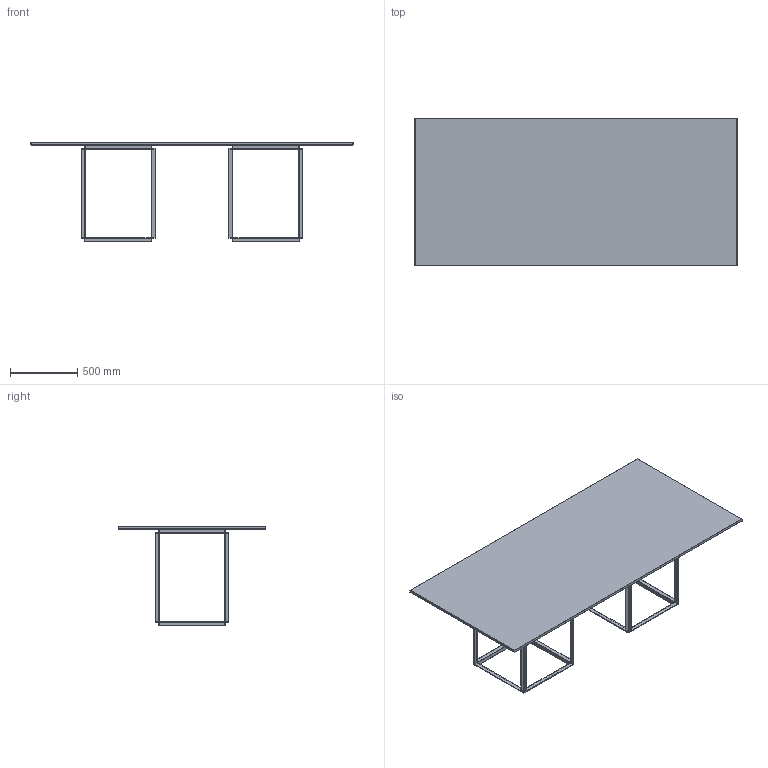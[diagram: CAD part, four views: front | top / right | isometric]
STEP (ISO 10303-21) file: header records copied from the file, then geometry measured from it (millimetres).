
FILE_DESCRIPTION(/* description */ (''),/* implementation_level */ '2;1');
FILE_NAME(/* name */ 'Florence Dining Table Rectangular',/* time_stamp */ '2020-08-29T22:18:00+02:00',/* author */ (''),/* organization */ (''),/* preprocessor_version */ 'ST-DEVELOPER v15',/* originating_system */ '',/* authorisation */ '');
FILE_SCHEMA (('AUTOMOTIVE_DESIGN'));
Length unit declared in the file: millimetre
Products named in the file (1): Document
Bounding box: 2400 x 1100 x 740 mm (x, y, z)
Volume: 56430415.7 mm3; surface area: 6999462.4 mm2
Topology: 3 solids, 3 shells, 234 faces, 521 edges, 265 vertices
Faces by surface type: plane 210, bspline 24
Entity records: 5533 total; most frequent: CARTESIAN_POINT 1858, ORIENTED_EDGE 1024, EDGE_CURVE 512, B_SPLINE_CURVE_WITH_KNOTS 465, VERTEX_POINT 264, EDGE_LOOP 250, ADVANCED_FACE 234, FACE_OUTER_BOUND 234
